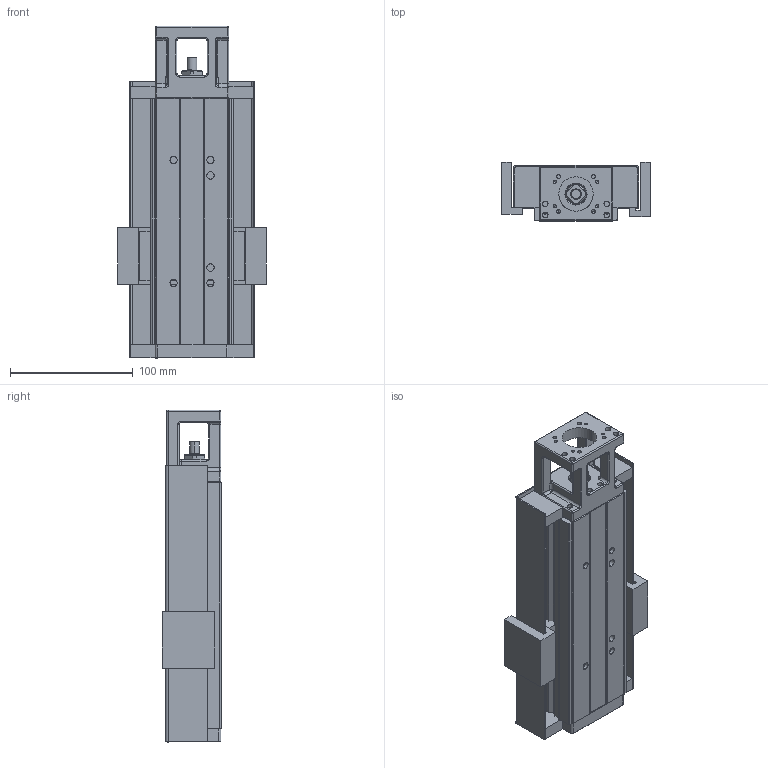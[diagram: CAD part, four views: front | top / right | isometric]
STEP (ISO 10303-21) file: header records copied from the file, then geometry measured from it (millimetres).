
FILE_DESCRIPTION (( 'STEP AP203' ), '1' );
FILE_NAME ('hkk60-200a1f0s.STEP', '2019-10-31T02:46:25', ( '微软用户' ), ( '微软中国' ), 'SwSTEP 2.0', 'SolidWorks 2016', '' );
FILE_SCHEMA (( 'CONFIG_CONTROL_DESIGN' ));
Length unit declared in the file: millimetre
Products named in the file (3): hkk60-300_3; hkk60賑怢_3; hkk60-200a1f0s
Assembly tree (2 placements, depth 2):
  hkk60-200a1f0s
    hkk60-300_3
    hkk60賑怢_3
Bounding box: 121 x 48 x 270 mm (x, y, z)
Volume: 528516.1 mm3; surface area: 234573.4 mm2
Topology: 45 solids, 51 shells, 1386 faces, 3502 edges, 2128 vertices
Faces by surface type: cylinder 494, plane 470, cone 211, bspline 211
Entity records: 60492 total; most frequent: CARTESIAN_POINT 28798, ORIENTED_EDGE 6686, DIRECTION 6166, EDGE_CURVE 3343, AXIS2_PLACEMENT_3D 2249, VERTEX_POINT 2128, VECTOR 1668, LINE 1668
